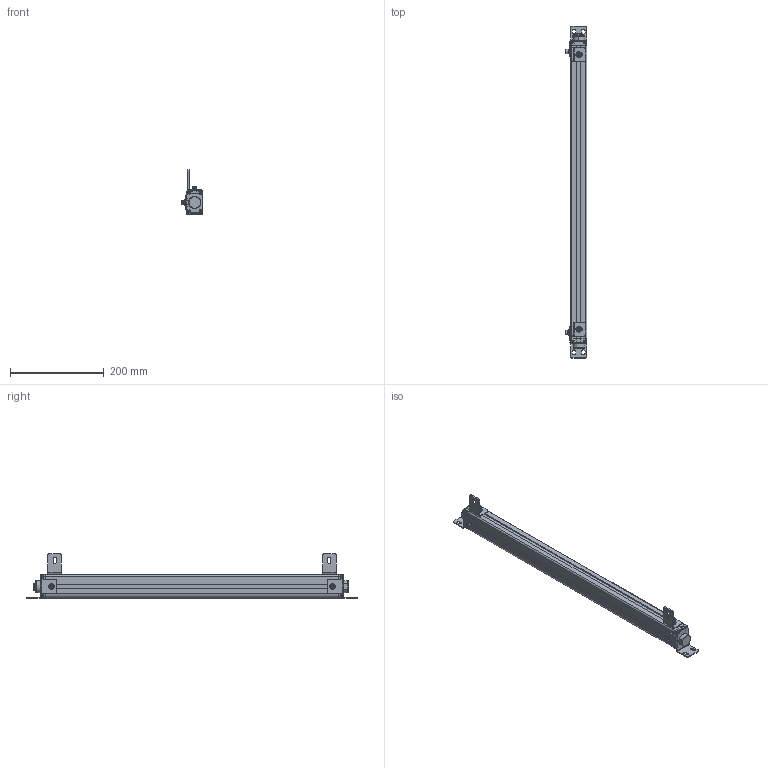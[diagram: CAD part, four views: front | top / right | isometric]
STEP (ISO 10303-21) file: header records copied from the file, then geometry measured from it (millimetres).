
FILE_DESCRIPTION((''),'2;1');
FILE_NAME('ESN--000_ASM','2021-08-10T21:22:40',('18720616900'),(''),'CREO PARAMETRIC BY PTC INC, 2019010','CREO PARAMETRIC BY PTC INC, 2019010','');
FILE_SCHEMA(('CONFIG_CONTROL_DESIGN'));
Length unit declared in the file: millimetre
Products named in the file (22): 00; 000; _0001; 4000; 4--0001; ESN_40001_ASM; L10001; M6-8--0001; M6-1--00; M6-1-00; M6-80001_ASM; L1--0001_ASM; _0002; 0005; ST-3-120001; H1--000; H1--0001_ASM; H1--0003_ASM; ESN--000_ASM
Assembly tree (34 placements, depth 4):
  ESN--000_ASM
    00
    000
    _0001
    000
    ESN_40001_ASM
      4000
      4--0001  x4
    L1--0001_ASM  x2
      L10001
      M6-80001_ASM
        M6-8--0001
        M6-1--00
        M6-1-00
        00
    _0002
    0005
    ST-3-120001  x8
    H1--0001_ASM
      H1--000
      M6-80001_ASM
        M6-8--0001
        M6-1--00
        M6-1-00
        00
    H1--0003_ASM
      H1--000
      M6-80001_ASM
        M6-8--0001
        M6-1--00
        M6-1-00
        00
Bounding box: 46.5 x 707 x 94.95 mm (x, y, z)
Volume: 992584.9 mm3; surface area: 222825.2 mm2
Topology: 39 solids, 39 shells, 1727 faces, 4555 edges, 2925 vertices
Faces by surface type: plane 541, cylinder 404, bspline 362, cone 291, torus 105, sphere 24
Entity records: 45714 total; most frequent: CARTESIAN_POINT 24222, ORIENTED_EDGE 4766, DIRECTION 3842, EDGE_CURVE 2383, VERTEX_POINT 1546, AXIS2_PLACEMENT_3D 1400, VECTOR 1042, LINE 1042
